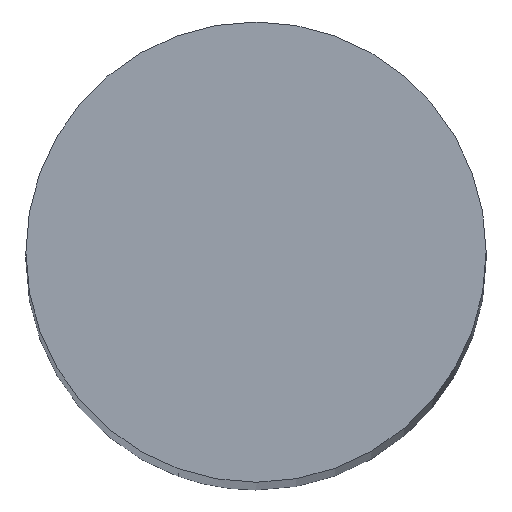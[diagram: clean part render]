
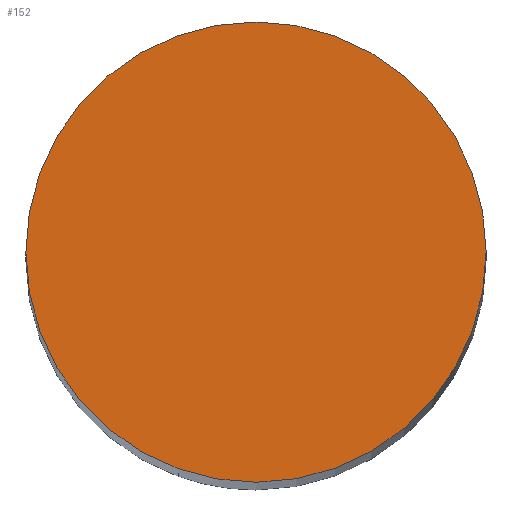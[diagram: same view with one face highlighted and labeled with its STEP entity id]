
A CAD part, top view. The second image highlights one B-rep face of the part: STEP entity #152.
In plain terms, the highlighted planar face has unit normal (0, 0, 1).
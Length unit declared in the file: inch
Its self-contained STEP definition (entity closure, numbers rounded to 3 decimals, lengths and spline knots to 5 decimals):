
#86=CARTESIAN_POINT('',(-0.04234,-0.11761,2.5));
#87=VERTEX_POINT('',#86);
#94=CARTESIAN_POINT('',(0.0,0.125,2.5));
#95=VERTEX_POINT('',#94);
#96=CARTESIAN_POINT('',(0.0,0.0,2.5));
#97=DIRECTION('',(0.0,-0.0,-1.0));
#98=DIRECTION('',(0.0,1.0,-0.0));
#99=AXIS2_PLACEMENT_3D('',#96,#97,#98);
#100=CIRCLE('',#99,0.125);
#101=EDGE_CURVE('no 1050',#87,#95,#100,.T.);
#128=CARTESIAN_POINT('',(0.0,0.0,2.5));
#129=DIRECTION('',(0.0,-0.0,-1.0));
#130=DIRECTION('',(0.0,1.0,-0.0));
#131=AXIS2_PLACEMENT_3D('',#128,#129,#130);
#132=CIRCLE('',#131,0.125);
#133=EDGE_CURVE('no 1054',#95,#87,#132,.T.);
#143=ORIENTED_EDGE('',*,*,#101,.F.);
#144=ORIENTED_EDGE('',*,*,#133,.F.);
#145=EDGE_LOOP('',(#143,#144));
#146=FACE_OUTER_BOUND('',#145,.T.);
#147=CARTESIAN_POINT('',(0.125,0.0,2.5));
#148=DIRECTION('',(0.0,0.0,1.0));
#149=DIRECTION('',(0.0,-1.0,0.0));
#150=AXIS2_PLACEMENT_3D('',#147,#148,#149);
#151=PLANE('',#150);
#152=ADVANCED_FACE('no 1126',(#146),#151,.T.);
